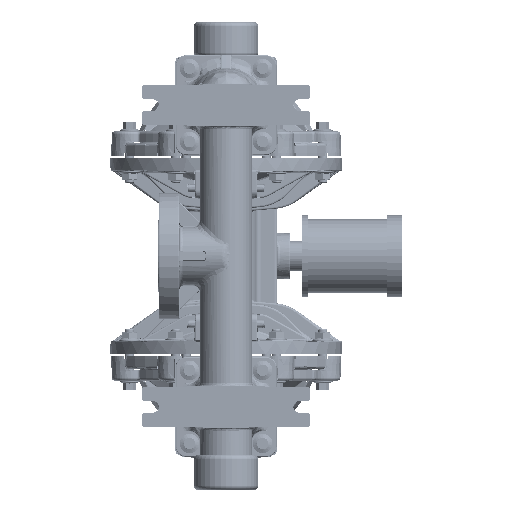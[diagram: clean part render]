
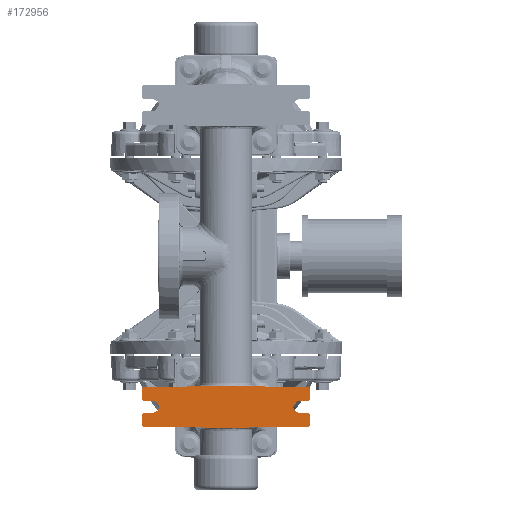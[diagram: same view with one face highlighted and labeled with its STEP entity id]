
A CAD part, front view. The second image highlights one B-rep face of the part: STEP entity #172956.
In plain terms, the highlighted planar face has unit normal (0, -1, 0).
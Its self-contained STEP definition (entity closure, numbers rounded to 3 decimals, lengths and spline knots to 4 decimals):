
#160543=CARTESIAN_POINT('',(2.775,-9.09,-5.7459));
#160544=DIRECTION('',(0.,-1.,0.));
#160545=DIRECTION('',(0.009,0.,-1.));
#160546=AXIS2_PLACEMENT_3D('',#160543,#160544,#160545);
#160548=CARTESIAN_POINT('',(-2.775,-9.09,-5.7459));
#160549=DIRECTION('',(0.,-1.,0.));
#160550=DIRECTION('',(-1.,0.,0.));
#160551=AXIS2_PLACEMENT_3D('',#160548,#160549,#160550);
#160553=CARTESIAN_POINT('',(-2.775,-9.09,-5.4587));
#160554=DIRECTION('',(0.,-1.,0.));
#160555=DIRECTION('',(-0.013,0.,1.));
#160556=AXIS2_PLACEMENT_3D('',#160553,#160554,#160555);
#160558=DIRECTION('',(1.,0.,0.013));
#160559=VECTOR('',#160558,0.2839);
#160560=CARTESIAN_POINT('',(-2.7763,-9.09,-5.3587));
#160561=LINE('',#160560,#160559);
#160562=CARTESIAN_POINT('',(-2.495,-9.09,-5.16));
#160563=DIRECTION('',(0.,-1.,0.));
#160564=DIRECTION('',(0.013,0.,-1.));
#160565=AXIS2_PLACEMENT_3D('',#160562,#160563,#160564);
#160567=DIRECTION('',(-1.,0.,0.013));
#160568=VECTOR('',#160567,0.2839);
#160569=CARTESIAN_POINT('',(-2.4924,-9.09,-4.965));
#160570=LINE('',#160569,#160568);
#160571=CARTESIAN_POINT('',(-2.775,-9.09,-4.8613));
#160572=DIRECTION('',(0.,-1.,0.));
#160573=DIRECTION('',(-1.,0.,0.));
#160574=AXIS2_PLACEMENT_3D('',#160571,#160572,#160573);
#160576=CARTESIAN_POINT('',(-2.775,-9.09,-4.5741));
#160577=DIRECTION('',(0.,-1.,0.));
#160578=DIRECTION('',(-0.009,0.,1.));
#160579=AXIS2_PLACEMENT_3D('',#160576,#160577,#160578);
#160581=CARTESIAN_POINT('',(2.775,-9.09,-4.5741));
#160582=DIRECTION('',(0.,-1.,0.));
#160583=DIRECTION('',(1.,0.,0.));
#160584=AXIS2_PLACEMENT_3D('',#160581,#160582,#160583);
#160586=CARTESIAN_POINT('',(2.775,-9.09,-4.8613));
#160587=DIRECTION('',(0.,-1.,0.));
#160588=DIRECTION('',(0.013,0.,-1.));
#160589=AXIS2_PLACEMENT_3D('',#160586,#160587,#160588);
#160591=DIRECTION('',(-1.,0.,-0.013));
#160592=VECTOR('',#160591,0.2839);
#160593=CARTESIAN_POINT('',(2.7763,-9.09,-4.9613));
#160594=LINE('',#160593,#160592);
#160595=CARTESIAN_POINT('',(2.495,-9.09,-5.16));
#160596=DIRECTION('',(0.,-1.,0.));
#160597=DIRECTION('',(-0.013,0.,1.));
#160598=AXIS2_PLACEMENT_3D('',#160595,#160596,#160597);
#160600=DIRECTION('',(1.,0.,-0.013));
#160601=VECTOR('',#160600,0.2839);
#160602=CARTESIAN_POINT('',(2.4924,-9.09,-5.355));
#160603=LINE('',#160602,#160601);
#160604=CARTESIAN_POINT('',(2.775,-9.09,-5.4587));
#160605=DIRECTION('',(0.,-1.,0.));
#160606=DIRECTION('',(1.,0.,0.));
#160607=AXIS2_PLACEMENT_3D('',#160604,#160605,#160606);
#160617=DIRECTION('',(0.,0.,-1.));
#160618=VECTOR('',#160617,0.2872);
#160619=CARTESIAN_POINT('',(-2.875,-9.09,-4.5741));
#160620=LINE('',#160619,#160618);
#160633=DIRECTION('',(0.,0.,-1.));
#160634=VECTOR('',#160633,0.2872);
#160635=CARTESIAN_POINT('',(-2.875,-9.09,-5.4587));
#160636=LINE('',#160635,#160634);
#160711=DIRECTION('',(-1.,0.,-0.009));
#160712=VECTOR('',#160711,2.776);
#160713=CARTESIAN_POINT('',(0.,-9.09,-4.4499));
#160714=LINE('',#160713,#160712);
#160796=DIRECTION('',(-1.,0.,0.009));
#160797=VECTOR('',#160796,2.776);
#160798=CARTESIAN_POINT('',(0.,-9.09,-5.8701));
#160799=LINE('',#160798,#160797);
#161012=DIRECTION('',(0.,0.,-1.));
#161013=VECTOR('',#161012,0.2872);
#161014=CARTESIAN_POINT('',(2.875,-9.09,-5.4587));
#161015=LINE('',#161014,#161013);
#161028=DIRECTION('',(0.,0.,-1.));
#161029=VECTOR('',#161028,0.2872);
#161030=CARTESIAN_POINT('',(2.875,-9.09,-4.5741));
#161031=LINE('',#161030,#161029);
#161134=DIRECTION('',(1.,0.,-0.009));
#161135=VECTOR('',#161134,2.776);
#161136=CARTESIAN_POINT('',(0.,-9.09,-4.4499));
#161137=LINE('',#161136,#161135);
#161154=DIRECTION('',(1.,0.,0.009));
#161155=VECTOR('',#161154,2.776);
#161156=CARTESIAN_POINT('',(0.,-9.09,-5.8701));
#161157=LINE('',#161156,#161155);
#166077=CARTESIAN_POINT('',(-2.4924,-9.09,-5.355));
#166078=CARTESIAN_POINT('',(-2.4924,-9.09,-4.965));
#166079=VERTEX_POINT('',#166077);
#166080=VERTEX_POINT('',#166078);
#166081=CARTESIAN_POINT('',(2.4924,-9.09,-4.965));
#166082=CARTESIAN_POINT('',(2.4924,-9.09,-5.355));
#166083=VERTEX_POINT('',#166081);
#166084=VERTEX_POINT('',#166082);
#166085=CARTESIAN_POINT('',(2.7759,-9.09,-5.8459));
#166086=CARTESIAN_POINT('',(2.875,-9.09,-5.7459));
#166087=VERTEX_POINT('',#166085);
#166088=VERTEX_POINT('',#166086);
#166089=CARTESIAN_POINT('',(2.875,-9.09,-5.4587));
#166090=CARTESIAN_POINT('',(2.7763,-9.09,-5.3587));
#166091=VERTEX_POINT('',#166089);
#166092=VERTEX_POINT('',#166090);
#166093=CARTESIAN_POINT('',(2.7763,-9.09,-4.9613));
#166094=CARTESIAN_POINT('',(2.875,-9.09,-4.8613));
#166095=VERTEX_POINT('',#166093);
#166096=VERTEX_POINT('',#166094);
#166097=CARTESIAN_POINT('',(2.875,-9.09,-4.5741));
#166098=CARTESIAN_POINT('',(2.7759,-9.09,-4.4741));
#166099=VERTEX_POINT('',#166097);
#166100=VERTEX_POINT('',#166098);
#166101=CARTESIAN_POINT('',(-2.7759,-9.09,-4.4741));
#166102=CARTESIAN_POINT('',(-2.875,-9.09,-4.5741));
#166103=VERTEX_POINT('',#166101);
#166104=VERTEX_POINT('',#166102);
#166105=CARTESIAN_POINT('',(-2.875,-9.09,-4.8613));
#166106=CARTESIAN_POINT('',(-2.7763,-9.09,-4.9613));
#166107=VERTEX_POINT('',#166105);
#166108=VERTEX_POINT('',#166106);
#166109=CARTESIAN_POINT('',(-2.7763,-9.09,-5.3587));
#166110=CARTESIAN_POINT('',(-2.875,-9.09,-5.4587));
#166111=VERTEX_POINT('',#166109);
#166112=VERTEX_POINT('',#166110);
#166113=CARTESIAN_POINT('',(-2.875,-9.09,-5.7459));
#166114=CARTESIAN_POINT('',(-2.7759,-9.09,-5.8459));
#166115=VERTEX_POINT('',#166113);
#166116=VERTEX_POINT('',#166114);
#166117=CARTESIAN_POINT('',(0.,-9.09,-4.4499));
#166118=VERTEX_POINT('',#166117);
#166119=CARTESIAN_POINT('',(0.,-9.09,-5.8701));
#166120=VERTEX_POINT('',#166119);
#172905=CARTESIAN_POINT('',(0.,-9.09,-4.475));
#172906=DIRECTION('',(0.,-1.,0.));
#172907=DIRECTION('',(-1.,0.,0.));
#172908=AXIS2_PLACEMENT_3D('',#172905,#172906,#172907);
#172909=PLANE('',#172908);
#172911=ORIENTED_EDGE('',*,*,#172910,.F.);
#172913=ORIENTED_EDGE('',*,*,#172912,.F.);
#172915=ORIENTED_EDGE('',*,*,#172914,.T.);
#172917=ORIENTED_EDGE('',*,*,#172916,.F.);
#172919=ORIENTED_EDGE('',*,*,#172918,.F.);
#172921=ORIENTED_EDGE('',*,*,#172920,.F.);
#172923=ORIENTED_EDGE('',*,*,#172922,.T.);
#172925=ORIENTED_EDGE('',*,*,#172924,.T.);
#172927=ORIENTED_EDGE('',*,*,#172926,.T.);
#172929=ORIENTED_EDGE('',*,*,#172928,.F.);
#172931=ORIENTED_EDGE('',*,*,#172930,.F.);
#172933=ORIENTED_EDGE('',*,*,#172932,.F.);
#172935=ORIENTED_EDGE('',*,*,#172934,.F.);
#172937=ORIENTED_EDGE('',*,*,#172936,.T.);
#172939=ORIENTED_EDGE('',*,*,#172938,.F.);
#172941=ORIENTED_EDGE('',*,*,#172940,.T.);
#172943=ORIENTED_EDGE('',*,*,#172942,.F.);
#172945=ORIENTED_EDGE('',*,*,#172944,.T.);
#172947=ORIENTED_EDGE('',*,*,#172946,.T.);
#172949=ORIENTED_EDGE('',*,*,#172948,.T.);
#172951=ORIENTED_EDGE('',*,*,#172950,.F.);
#172953=ORIENTED_EDGE('',*,*,#172952,.T.);
#172954=EDGE_LOOP('',(#172911,#172913,#172915,#172917,#172919,#172921,#172923,
#172925,#172927,#172929,#172931,#172933,#172935,#172937,#172939,#172941,#172943,
#172945,#172947,#172949,#172951,#172953));
#172955=FACE_OUTER_BOUND('',#172954,.F.);
#172956=ADVANCED_FACE('',(#172955),#172909,.T.);
#160547=CIRCLE('',#160546,0.1);
#160552=CIRCLE('',#160551,0.1);
#160557=CIRCLE('',#160556,0.1);
#160566=CIRCLE('',#160565,0.195);
#160575=CIRCLE('',#160574,0.1);
#160580=CIRCLE('',#160579,0.1);
#160585=CIRCLE('',#160584,0.1);
#160590=CIRCLE('',#160589,0.1);
#160599=CIRCLE('',#160598,0.195);
#160608=CIRCLE('',#160607,0.1);
#172910=EDGE_CURVE('',#166087,#166088,#160547,.T.);
#172912=EDGE_CURVE('',#166120,#166087,#161157,.T.);
#172914=EDGE_CURVE('',#166120,#166116,#160799,.T.);
#172916=EDGE_CURVE('',#166115,#166116,#160552,.T.);
#172918=EDGE_CURVE('',#166112,#166115,#160636,.T.);
#172920=EDGE_CURVE('',#166111,#166112,#160557,.T.);
#172922=EDGE_CURVE('',#166111,#166079,#160561,.T.);
#172924=EDGE_CURVE('',#166079,#166080,#160566,.T.);
#172926=EDGE_CURVE('',#166080,#166108,#160570,.T.);
#172928=EDGE_CURVE('',#166107,#166108,#160575,.T.);
#172930=EDGE_CURVE('',#166104,#166107,#160620,.T.);
#172932=EDGE_CURVE('',#166103,#166104,#160580,.T.);
#172934=EDGE_CURVE('',#166118,#166103,#160714,.T.);
#172936=EDGE_CURVE('',#166118,#166100,#161137,.T.);
#172938=EDGE_CURVE('',#166099,#166100,#160585,.T.);
#172940=EDGE_CURVE('',#166099,#166096,#161031,.T.);
#172942=EDGE_CURVE('',#166095,#166096,#160590,.T.);
#172944=EDGE_CURVE('',#166095,#166083,#160594,.T.);
#172946=EDGE_CURVE('',#166083,#166084,#160599,.T.);
#172948=EDGE_CURVE('',#166084,#166092,#160603,.T.);
#172950=EDGE_CURVE('',#166091,#166092,#160608,.T.);
#172952=EDGE_CURVE('',#166091,#166088,#161015,.T.);
